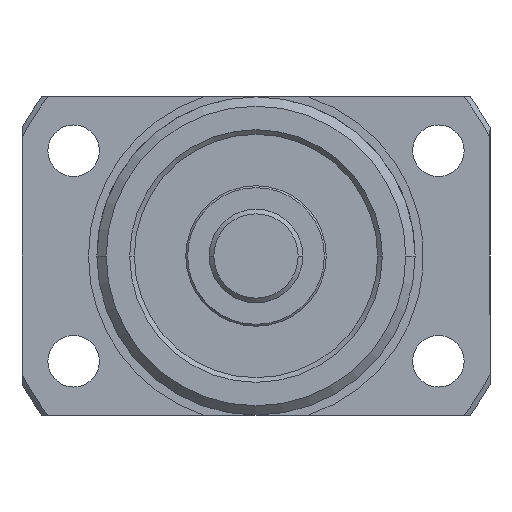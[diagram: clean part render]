
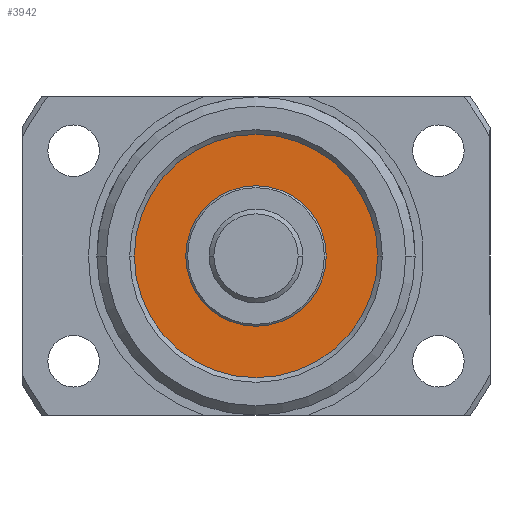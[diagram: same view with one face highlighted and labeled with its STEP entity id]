
A CAD part, left-side view. The second image highlights one B-rep face of the part: STEP entity #3942.
In plain terms, the highlighted planar face has unit normal (-1, 0, 0).
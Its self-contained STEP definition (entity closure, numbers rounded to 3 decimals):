
#1 = DIRECTION ( 'NONE',  ( 0., -1., 0. ) ) ;
#2 = DIRECTION ( 'NONE',  ( -1., 0., 0. ) ) ;
#3 = CARTESIAN_POINT ( 'NONE',  ( -61.5, 0., 0. ) ) ;
#319 = AXIS2_PLACEMENT_3D ( 'NONE', #4724, #4725, #4726 ) ;
#507 = EDGE_CURVE ( 'NONE', #4376, #4374, #1929, .T. ) ;
#784 = CARTESIAN_POINT ( 'NONE',  ( -61.5, 0., 7.5 ) ) ;
#786 = CARTESIAN_POINT ( 'NONE',  ( -61.5, 0., -7.5 ) ) ;
#1082 = EDGE_LOOP ( 'NONE', ( #5064, #5065 ) ) ;
#1088 = EDGE_LOOP ( 'NONE', ( #5062, #5063 ) ) ;
#1165 = CARTESIAN_POINT ( 'NONE',  ( -61.5, 0., 0. ) ) ;
#1166 = DIRECTION ( 'NONE',  ( -1., 0., 0. ) ) ;
#1167 = DIRECTION ( 'NONE',  ( 0., -1., 0. ) ) ;
#1333 = EDGE_CURVE ( 'NONE', #4374, #4376, #2002, .T. ) ;
#1929 = CIRCLE ( 'NONE', #5571, 7.5 ) ;
#2002 = CIRCLE ( 'NONE', #5623, 7.5 ) ;
#2096 = CIRCLE ( 'NONE', #5773, 13. ) ;
#2147 = VERTEX_POINT ( 'NONE', #3748 ) ;
#2386 = CIRCLE ( 'NONE', #5726, 13. ) ;
#2604 = FACE_OUTER_BOUND ( 'NONE', #1082, .T. ) ;
#2606 = FACE_BOUND ( 'NONE', #1088, .T. ) ;
#3000 = EDGE_CURVE ( 'NONE', #2147, #4409, #2386, .T. ) ;
#3092 = EDGE_CURVE ( 'NONE', #4409, #2147, #2096, .T. ) ;
#3500 = CARTESIAN_POINT ( 'NONE',  ( -61.5, 0., 0. ) ) ;
#3501 = DIRECTION ( 'NONE',  ( -1., 0., 0. ) ) ;
#3502 = DIRECTION ( 'NONE',  ( 0., -1., 0. ) ) ;
#3539 = CARTESIAN_POINT ( 'NONE',  ( -61.5, 13., 0. ) ) ;
#3748 = CARTESIAN_POINT ( 'NONE',  ( -61.5, -13., 0. ) ) ;
#3942 = ADVANCED_FACE ( 'NONE', ( #2606, #2604 ), #4719, .T. ) ;
#4374 = VERTEX_POINT ( 'NONE', #784 ) ;
#4376 = VERTEX_POINT ( 'NONE', #786 ) ;
#4409 = VERTEX_POINT ( 'NONE', #3539 ) ;
#4719 = PLANE ( 'NONE',  #319 ) ;
#4724 = CARTESIAN_POINT ( 'NONE',  ( -61.5, 0., 0. ) ) ;
#4725 = DIRECTION ( 'NONE',  ( -1., 0., 0. ) ) ;
#4726 = DIRECTION ( 'NONE',  ( 0., -1., 0. ) ) ;
#5062 = ORIENTED_EDGE ( 'NONE', *, *, #507, .F. ) ;
#5063 = ORIENTED_EDGE ( 'NONE', *, *, #1333, .F. ) ;
#5064 = ORIENTED_EDGE ( 'NONE', *, *, #3000, .T. ) ;
#5065 = ORIENTED_EDGE ( 'NONE', *, *, #3092, .T. ) ;
#5571 = AXIS2_PLACEMENT_3D ( 'NONE', #3, #2, #1 ) ;
#5623 = AXIS2_PLACEMENT_3D ( 'NONE', #5916, #5915, #5914 ) ;
#5726 = AXIS2_PLACEMENT_3D ( 'NONE', #3500, #3501, #3502 ) ;
#5773 = AXIS2_PLACEMENT_3D ( 'NONE', #1165, #1166, #1167 ) ;
#5914 = DIRECTION ( 'NONE',  ( 0., -1., 0. ) ) ;
#5915 = DIRECTION ( 'NONE',  ( -1., 0., 0. ) ) ;
#5916 = CARTESIAN_POINT ( 'NONE',  ( -61.5, 0., 0. ) ) ;
